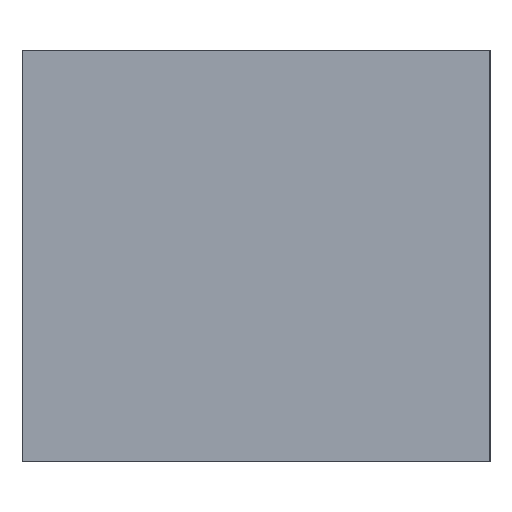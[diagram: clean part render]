
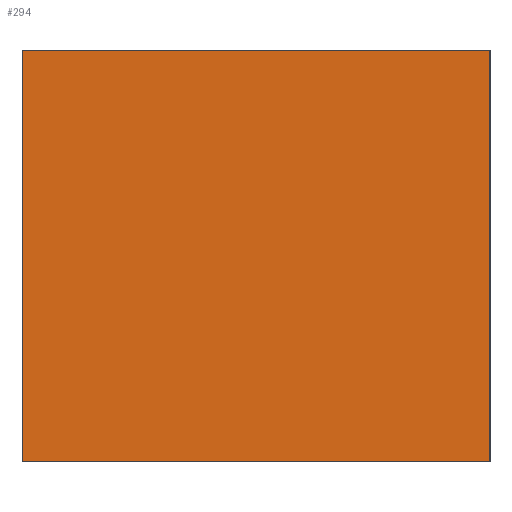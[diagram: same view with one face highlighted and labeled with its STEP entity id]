
A CAD part, left-side view. The second image highlights one B-rep face of the part: STEP entity #294.
In plain terms, the highlighted planar face has unit normal (-1, 0, 0).
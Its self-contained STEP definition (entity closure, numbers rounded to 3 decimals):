
#294=ADVANCED_FACE('',(#480),#482,.T.);
#480=FACE_BOUND('',#481,.T.);
#481=EDGE_LOOP('',(#606,#607,#608,#609));
#482=PLANE('',#483);
#483=AXIS2_PLACEMENT_3D('',#484,#485,#486);
#484=CARTESIAN_POINT('',(-1.,-0.625,0.));
#485=DIRECTION('',(-1.,0.,0.));
#486=DIRECTION('',(0.,0.,1.));
#606=ORIENTED_EDGE('',*,*,#659,.T.);
#607=ORIENTED_EDGE('',*,*,#672,.T.);
#608=ORIENTED_EDGE('',*,*,#664,.F.);
#609=ORIENTED_EDGE('',*,*,#673,.F.);
#659=EDGE_CURVE('',#752,#750,#753,.T.);
#664=EDGE_CURVE('',#759,#761,#762,.T.);
#672=EDGE_CURVE('',#750,#761,#772,.T.);
#673=EDGE_CURVE('',#752,#759,#773,.T.);
#750=VERTEX_POINT('',#938);
#752=VERTEX_POINT('',#942);
#753=LINE('',#943,#944);
#759=VERTEX_POINT('',#957);
#761=VERTEX_POINT('',#961);
#762=LINE('',#962,#963);
#772=LINE('',#988,#989);
#773=LINE('',#991,#992);
#938=CARTESIAN_POINT('',(-1.,-0.625,1.1));
#942=CARTESIAN_POINT('',(-1.,-0.625,0.));
#943=CARTESIAN_POINT('',(-1.,-0.625,0.));
#944=VECTOR('',#945,1.);
#945=DIRECTION('',(0.,0.,1.));
#957=CARTESIAN_POINT('',(-1.,0.625,0.));
#961=CARTESIAN_POINT('',(-1.,0.625,1.1));
#962=CARTESIAN_POINT('',(-1.,0.625,0.));
#963=VECTOR('',#964,1.);
#964=DIRECTION('',(0.,0.,1.));
#988=CARTESIAN_POINT('',(-1.,-0.625,1.1));
#989=VECTOR('',#990,1.);
#990=DIRECTION('',(0.,1.,0.));
#991=CARTESIAN_POINT('',(-1.,-0.625,0.));
#992=VECTOR('',#993,1.);
#993=DIRECTION('',(0.,1.,0.));
